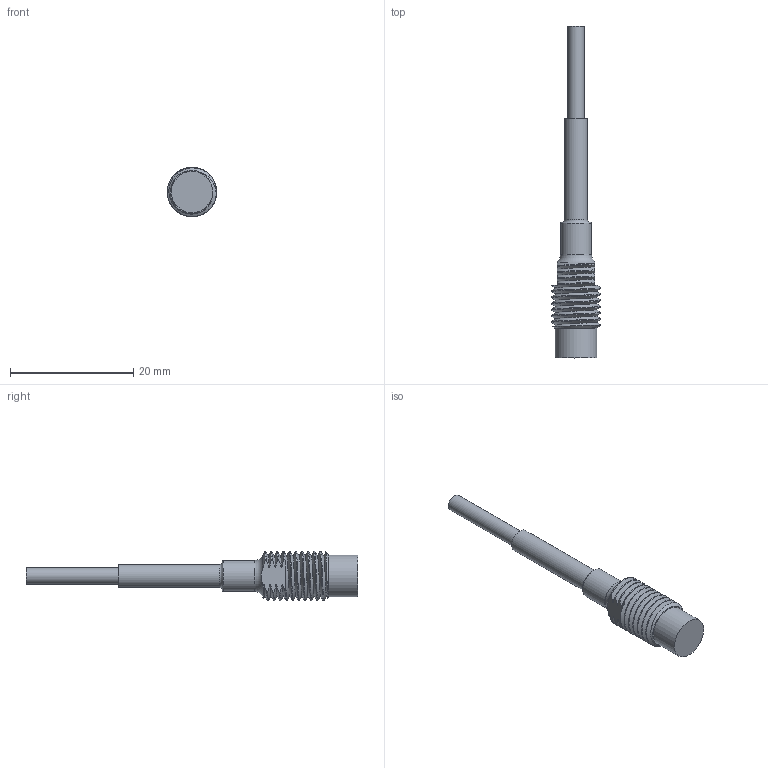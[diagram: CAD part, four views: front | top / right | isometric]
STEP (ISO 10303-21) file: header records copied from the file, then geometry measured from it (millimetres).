
FILE_DESCRIPTION( ( 'STEP AP214' ), '1' );
FILE_NAME( 'N:/Engineering/CAD_Solid/Wirbelstrom/Wirbelstromsensoren/T2/T2_G_KA_VK23.stp', '2011-04-12T09:03:10', ( ' ' ), ( ' ' ), 'XStep 1.0', ' ', ' ' );
FILE_SCHEMA( ( 'CONFIG_CONTROL_DESIGN) ( )' ) );
Length unit declared in the file: metre
Products named in the file (4): 1; 2; 3; 4
Bounding box: 8 x 53.8 x 8 mm (x, y, z)
Surface area: 1446.8 mm2 (no closed solid volume)
Topology: 0 solids, 55 shells, 55 faces, 278 edges, 266 vertices
Faces by surface type: bspline 25, cylinder 15, plane 10, torus 3, cone 2
Full cylindrical faces by diameter (mm): 1 x1, 2.7 x2, 3.7 x1, 5 x2, 6.7 x1
Entity records: 20675 total; most frequent: CARTESIAN_POINT 19110, ORIENTED_EDGE 264, EDGE_CURVE 264, VERTEX_POINT 264, DIRECTION 170, B_SPLINE_CURVE_WITH_KNOTS 131, AXIS2_PLACEMENT_3D 69, FACE_BOUND 69
